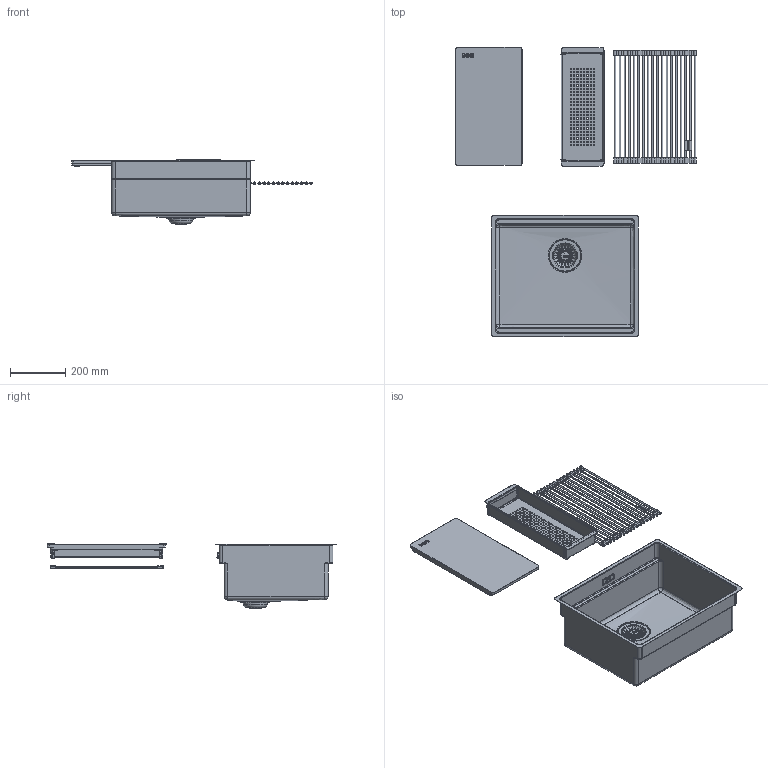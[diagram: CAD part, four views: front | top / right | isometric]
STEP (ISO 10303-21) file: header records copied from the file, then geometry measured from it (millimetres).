
FILE_DESCRIPTION(/* description */ (''),/* implementation_level */ '2;1');
FILE_NAME(/* name */ '3D001_Sinks_Box-Pro_BXX-PRO-210-110-50',/* time_stamp */ '2026-07-02T10:59:49+02:00',/* author */ (''),/* organization */ (''),/* preprocessor_version */ 'ST-DEVELOPER v19.2',/* originating_system */ 'Rhino 8.31',/* authorisation */ '');
FILE_SCHEMA (('CONFIG_CONTROL_DESIGN'));
Products named in the file (12): Document; 20281569_ipt_000; OVERFLOW; 20287093_iam_000; 20287095_ipt_000; 20111975_IPT_000; ROLLMAT; 20116789_IPT_000; STRAINER_BOWL; 20116746_IPT_000; 20116745_IPT_000; 20110328_IPT_000
Bounding box: 870.31 x 1048.06 x 234.72 mm (x, y, z)
Volume: 3451153.7 mm3; surface area: 1976631.7 mm2
Topology: 49 solids, 55 shells, 5419 faces, 14978 edges, 9711 vertices
Faces by surface type: plane 2743, cylinder 1743, bspline 933
Full cylindrical faces by diameter (mm): 3.9 x4, 4 x8, 4.8 x18, 5 x12, 5.05 x4, 5.994 x1, 6 x57, 6.2 x1, 8 x1, 11 x1, 12.6 x1, 13.743 x1, 25 x1, 31 x1, 47 x1, 84 x1, 89 x1
Entity records: 196791 total; most frequent: CARTESIAN_POINT 90372, ORIENTED_EDGE 25824, EDGE_CURVE 12983, DIRECTION 12925, B_SPLINE_CURVE_WITH_KNOTS 8515, VERTEX_POINT 8484, AXIS2_PLACEMENT_3D 8445, EDGE_LOOP 5247
